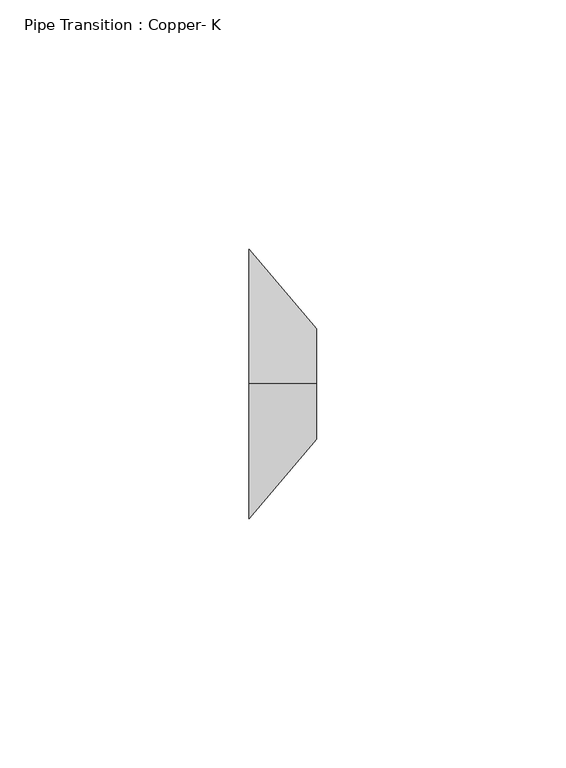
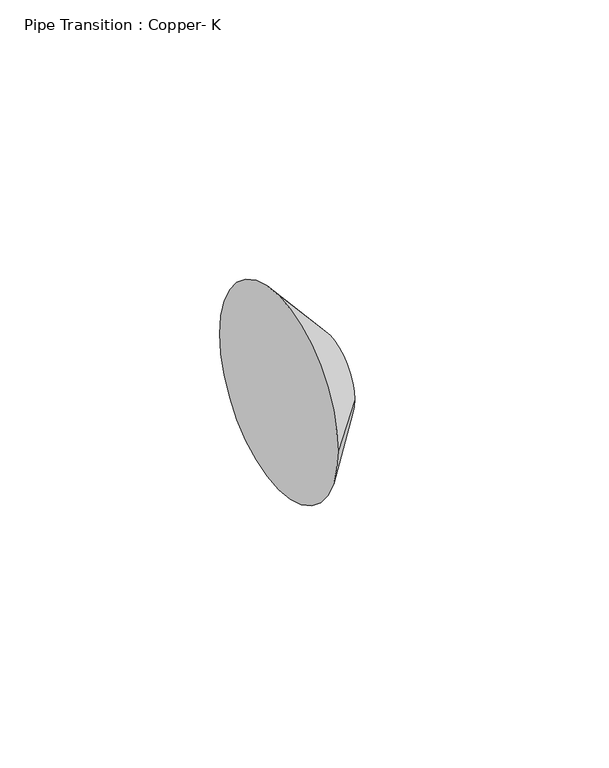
"""IFC4 building model written with IfcOpenShell, lengths in millimetres: pipe fitting geometry, Pipe Transition : Copper- K."""

from ifc_helpers import new_model, si_unit, frame, origin, place, context, project, spatial, circle_curve, source, transform, mapped, element, save
from ifc_brep_helpers import plane_surface, spline_surface, advanced_brep


def pipe_transition_copper_k_534477dd(model_context):
    return source(origin(), model_context, "Body", "AdvancedBrep", [
        advanced_brep(
        [(13.49375, 0.0, 11.1339348), (13.49375, -11.1125, 0.0214348), (13.49375, 0.0, -11.0910652), (13.49375, 11.1125, 0.0214348), (0.0, 0.0, 26.9875), (0.0, 26.9875, 0.0), (0.0, 0.0, -26.9875), (0.0, -26.9875, 0.0)],
        [
            (0, 1, circle_curve(frame((13.49375, 0.0, 0.0214348), z_axis=(1.0, 0.0, 0.0), x_axis=(0.0, 1.0, 0.0)), 11.1125)),
            (1, 2, circle_curve(frame((13.49375, 0.0, 0.0214348), z_axis=(1.0, 0.0, 0.0), x_axis=(0.0, 1.0, 0.0)), 11.1125)),
            (2, 3, circle_curve(frame((13.49375, 0.0, 0.0214348), z_axis=(1.0, 0.0, 0.0), x_axis=(0.0, 1.0, 0.0)), 11.1125)),
            (3, 0, circle_curve(frame((13.49375, 0.0, 0.0214348), z_axis=(1.0, 0.0, 0.0), x_axis=(0.0, 1.0, 0.0)), 11.1125)),
            (4, 5, circle_curve(frame((0.0, 0.0, 0.0), z_axis=(-1.0, 0.0, 0.0), x_axis=(0.0, 1.0, 0.0)), 26.9875)),
            (5, 6, circle_curve(frame((0.0, 0.0, 0.0), z_axis=(-1.0, 0.0, 0.0), x_axis=(0.0, 1.0, 0.0)), 26.9875)),
            (6, 7, circle_curve(frame((0.0, 0.0, 0.0), z_axis=(-1.0, 0.0, 0.0), x_axis=(0.0, 1.0, 0.0)), 26.9875)),
            (7, 4, circle_curve(frame((0.0, 0.0, 0.0), z_axis=(-1.0, 0.0, 0.0), x_axis=(0.0, 1.0, 0.0)), 26.9875)),
            (7, 1),
            (0, 4),
            (6, 2),
            (5, 3),
        ],
        [
            plane_surface(frame((13.49375, 0.0, 0.0214348), z_axis=(1.0, 0.0, 0.0), x_axis=(0.0, -1.0, 0.0))),
            plane_surface(frame((0.0, 0.0, 0.0), z_axis=(-1.0, 0.0, 0.0), x_axis=(0.0, -1.0, 0.0))),
            spline_surface(2, 1, [[(0.0, 0.0, 26.9875), (13.49375, 0.0, 11.1339348)], [(0.0, -26.9875, 26.9875), (13.49375, -11.1125, 11.1339348)], [(0.0, -26.9875, 0.0), (13.49375, -11.1125, 0.0214348)]], [3, 3], [2, 2], [0.0, 1.0], [0.0, 1.0], weights=[[1.0, 1.0], [0.7071067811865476, 0.7071067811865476], [1.0, 1.0]]),
            spline_surface(2, 1, [[(0.0, -26.9875, 0.0), (13.49375, -11.1125, 0.0214348)], [(0.0, -26.9875, -26.9875), (13.49375, -11.1125, -11.091065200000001)], [(0.0, 0.0, -26.9875), (13.49375, 0.0, -11.0910652)]], [3, 3], [2, 2], [0.0, 1.0], [0.0, 1.0], weights=[[1.0, 1.0], [0.7071067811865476, 0.7071067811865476], [1.0, 1.0]]),
            spline_surface(2, 1, [[(0.0, 0.0, -26.9875), (13.49375, 0.0, -11.0910652)], [(0.0, 26.9875, -26.9875), (13.49375, 11.112499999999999, -11.0910652)], [(0.0, 26.9875, 0.0), (13.49375, 11.1125, 0.0214348)]], [3, 3], [2, 2], [0.0, 1.0], [0.0, 1.0], weights=[[1.0, 1.0], [0.7071067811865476, 0.7071067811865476], [1.0, 1.0]]),
            spline_surface(2, 1, [[(0.0, 26.9875, 0.0), (13.49375, 11.1125, 0.0214348)], [(0.0, 26.9875, 26.9875), (13.49375, 11.1125, 11.1339348)], [(0.0, 0.0, 26.9875), (13.49375, 0.0, 11.1339348)]], [3, 3], [2, 2], [0.0, 1.0], [0.0, 1.0], weights=[[1.0, 1.0], [0.7071067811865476, 0.7071067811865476], [1.0, 1.0]]),
        ],
        [
            (0, [[1, 2, 3, 4]]),
            (1, [[5, 6, 7, 8]]),
            (2, [[-8, 9, -1, 10]]),
            (3, [[-7, 11, -2, -9]]),
            (4, [[-6, 12, -3, -11]]),
            (5, [[-5, -10, -4, -12]]),
        ],
    ),
        advanced_brep(
        [(13.49375, 0.0, 11.1339348), (13.49375, -11.1125, 0.0214348), (13.49375, 0.0, -11.0910652), (13.49375, 11.1125, 0.0214348), (0.0, 0.0, 26.9875), (0.0, 26.9875, 0.0), (0.0, 0.0, -26.9875), (0.0, -26.9875, 0.0)],
        [
            (0, 1, circle_curve(frame((13.49375, 0.0, 0.0214348), z_axis=(1.0, 0.0, 0.0), x_axis=(0.0, 1.0, 0.0)), 11.1125)),
            (1, 2, circle_curve(frame((13.49375, 0.0, 0.0214348), z_axis=(1.0, 0.0, 0.0), x_axis=(0.0, 1.0, 0.0)), 11.1125)),
            (2, 3, circle_curve(frame((13.49375, 0.0, 0.0214348), z_axis=(1.0, 0.0, 0.0), x_axis=(0.0, 1.0, 0.0)), 11.1125)),
            (3, 0, circle_curve(frame((13.49375, 0.0, 0.0214348), z_axis=(1.0, 0.0, 0.0), x_axis=(0.0, 1.0, 0.0)), 11.1125)),
            (4, 5, circle_curve(frame((0.0, 0.0, 0.0), z_axis=(-1.0, 0.0, 0.0), x_axis=(0.0, 1.0, 0.0)), 26.9875)),
            (5, 6, circle_curve(frame((0.0, 0.0, 0.0), z_axis=(-1.0, 0.0, 0.0), x_axis=(0.0, 1.0, 0.0)), 26.9875)),
            (6, 7, circle_curve(frame((0.0, 0.0, 0.0), z_axis=(-1.0, 0.0, 0.0), x_axis=(0.0, 1.0, 0.0)), 26.9875)),
            (7, 4, circle_curve(frame((0.0, 0.0, 0.0), z_axis=(-1.0, 0.0, 0.0), x_axis=(0.0, 1.0, 0.0)), 26.9875)),
            (7, 1),
            (0, 4),
            (6, 2),
            (5, 3),
        ],
        [
            plane_surface(frame((13.49375, 0.0, 0.0214348), z_axis=(1.0, 0.0, 0.0), x_axis=(0.0, -1.0, 0.0))),
            plane_surface(frame((0.0, 0.0, 0.0), z_axis=(-1.0, 0.0, 0.0), x_axis=(0.0, -1.0, 0.0))),
            spline_surface(2, 1, [[(0.0, 0.0, 26.9875), (13.49375, 0.0, 11.1339348)], [(0.0, -26.9875, 26.9875), (13.49375, -11.1125, 11.1339348)], [(0.0, -26.9875, 0.0), (13.49375, -11.1125, 0.0214348)]], [3, 3], [2, 2], [0.0, 1.0], [0.0, 1.0], weights=[[1.0, 1.0], [0.7071067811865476, 0.7071067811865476], [1.0, 1.0]]),
            spline_surface(2, 1, [[(0.0, -26.9875, 0.0), (13.49375, -11.1125, 0.0214348)], [(0.0, -26.9875, -26.9875), (13.49375, -11.1125, -11.091065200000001)], [(0.0, 0.0, -26.9875), (13.49375, 0.0, -11.0910652)]], [3, 3], [2, 2], [0.0, 1.0], [0.0, 1.0], weights=[[1.0, 1.0], [0.7071067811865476, 0.7071067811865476], [1.0, 1.0]]),
            spline_surface(2, 1, [[(0.0, 0.0, -26.9875), (13.49375, 0.0, -11.0910652)], [(0.0, 26.9875, -26.9875), (13.49375, 11.112499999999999, -11.0910652)], [(0.0, 26.9875, 0.0), (13.49375, 11.1125, 0.0214348)]], [3, 3], [2, 2], [0.0, 1.0], [0.0, 1.0], weights=[[1.0, 1.0], [0.7071067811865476, 0.7071067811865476], [1.0, 1.0]]),
            spline_surface(2, 1, [[(0.0, 26.9875, 0.0), (13.49375, 11.1125, 0.0214348)], [(0.0, 26.9875, 26.9875), (13.49375, 11.1125, 11.1339348)], [(0.0, 0.0, 26.9875), (13.49375, 0.0, 11.1339348)]], [3, 3], [2, 2], [0.0, 1.0], [0.0, 1.0], weights=[[1.0, 1.0], [0.7071067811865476, 0.7071067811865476], [1.0, 1.0]]),
        ],
        [
            (0, [[1, 2, 3, 4]]),
            (1, [[5, 6, 7, 8]]),
            (2, [[-8, 9, -1, 10]]),
            (3, [[-7, 11, -2, -9]]),
            (4, [[-6, 12, -3, -11]]),
            (5, [[-5, -10, -4, -12]]),
        ],
    ),
    ])


if __name__ == "__main__":
    model = new_model("IFC4")
    model_context = context("Model", 3, world=origin())
    ifc_project = project(units=[si_unit("LENGTHUNIT", "METRE", prefix="MILLI")], contexts=[model_context])
    site = spatial("IfcSite", under=ifc_project)
    building = spatial("IfcBuilding", under=site)
    placement = place(None, origin())
    pipe_transition_copper_k_shape = pipe_transition_copper_k_534477dd(model_context)
    element("IfcPipeFitting", 1, ObjectType="Pipe Transition : Copper- K", at=placement, inside=building, context=model_context, shape_type="MappedRepresentation", body=[
        mapped(pipe_transition_copper_k_shape, transform((0.0, 0.0, 0.0), x_axis=(1.0, 0.0, 0.0), y_axis=(0.0, 1.0, 0.0), z_axis=(0.0, 0.0, 1.0))),
    ])
    save(model, "model.ifc")
